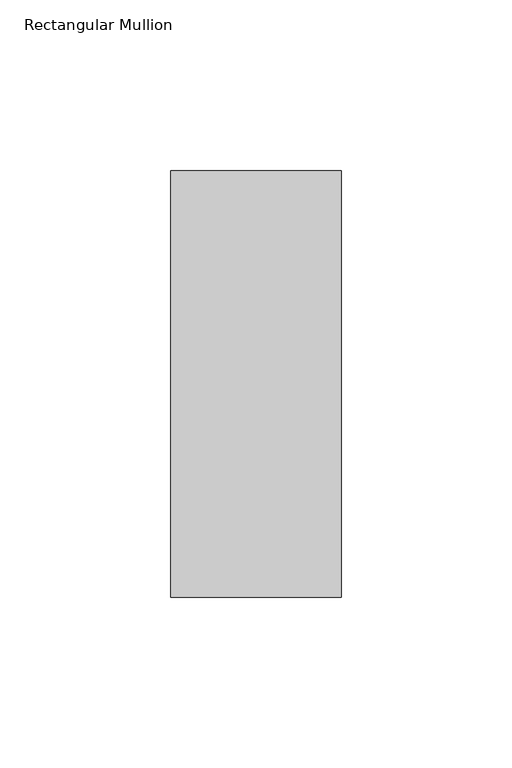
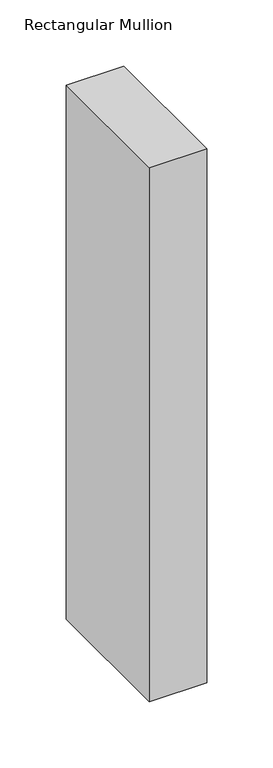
"""IFC4 building model written with IfcOpenShell, lengths in millimetres: member geometry, Rectangular Mullion : DucoSun Cubic Design profile 50x125 for louvre 300."""

from ifc_helpers import new_model, si_unit, frame, origin, place, context, project, spatial, polyline, outline, extrude, source, transform, mapped, element, save


def rectangular_mullion_ababc4a7(model_context):
    return source(origin(), model_context, "Body", "SweptSolid", [
        extrude(outline(polyline([(0.0, 87.5), (-50.0, 87.5), (-50.0, 212.5), (0.0, 212.5), (0.0, 87.5)])), frame((0.0, 0.0, -491.4999999), z_axis=(0.0, 0.0, 1.0), x_axis=(1.0, 0.0, 0.0)), (0.0, 0.0, 1.0), 491.4999999),
    ])


if __name__ == "__main__":
    model = new_model("IFC4")
    model_context = context("Model", 3, world=origin())
    ifc_project = project(units=[si_unit("LENGTHUNIT", "METRE", prefix="MILLI")], contexts=[model_context])
    site = spatial("IfcSite", under=ifc_project)
    building = spatial("IfcBuilding", under=site)
    placement = place(None, origin())
    rectangular_mullion_shape = rectangular_mullion_ababc4a7(model_context)
    element("IfcMember", 1, ObjectType="Rectangular Mullion : DucoSun Cubic Design profile 50x125 for louvre 300", at=placement, inside=building, context=model_context, shape_type="MappedRepresentation", body=[
        mapped(rectangular_mullion_shape, transform((0.0, 0.0, 0.0), x_axis=(1.0, 0.0, 0.0), y_axis=(0.0, 1.0, 0.0), z_axis=(0.0, 0.0, 1.0))),
    ])
    save(model, "model.ifc")
